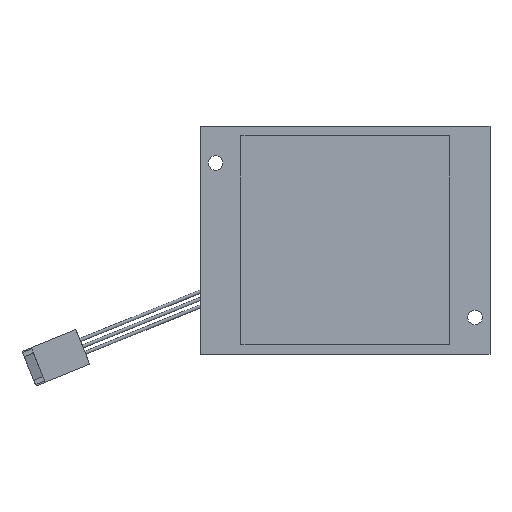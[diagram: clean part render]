
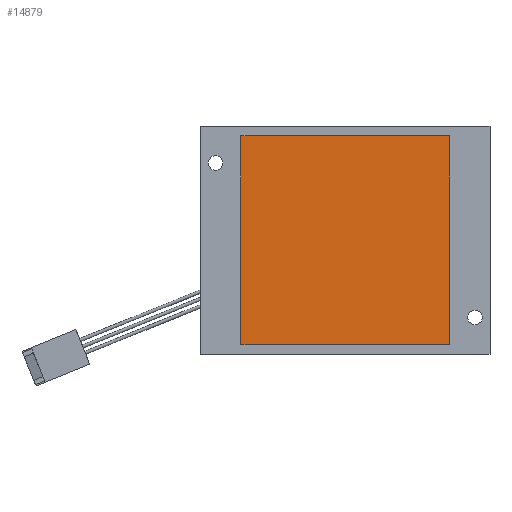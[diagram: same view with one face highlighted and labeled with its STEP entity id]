
A CAD part, front view. The second image highlights one B-rep face of the part: STEP entity #14879.
In plain terms, the highlighted planar face has unit normal (0, -1, 0).
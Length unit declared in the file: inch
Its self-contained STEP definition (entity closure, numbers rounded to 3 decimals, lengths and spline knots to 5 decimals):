
#380 = VERTEX_POINT ( 'NONE', #10661 ) ;
#1088 = PLANE ( 'NONE',  #29495 ) ;
#1500 = CARTESIAN_POINT ( 'NONE',  ( 0.90002, -0.00512, -0.90008 ) ) ;
#2191 = DIRECTION ( 'NONE',  ( 0., 1., 0. ) ) ;
#3727 = EDGE_CURVE ( 'NONE', #39242, #47855, #43519, .T. ) ;
#5800 = CARTESIAN_POINT ( 'NONE',  ( 0.00002, -0.00512, -0.00008 ) ) ;
#6351 = EDGE_CURVE ( 'NONE', #380, #26588, #38658, .T. ) ;
#8092 = LINE ( 'NONE', #50390, #39762 ) ;
#9494 = EDGE_CURVE ( 'NONE', #26588, #39242, #8092, .T. ) ;
#10661 = CARTESIAN_POINT ( 'NONE',  ( 0.90002, -0.00512, 0.89992 ) ) ;
#12876 = CARTESIAN_POINT ( 'NONE',  ( -0.89998, -0.00512, 0.89992 ) ) ;
#13141 = VECTOR ( 'NONE', #42767, 39.37008 ) ;
#13284 = CARTESIAN_POINT ( 'NONE',  ( -0.89998, -0.00512, 0.89992 ) ) ;
#14273 = ORIENTED_EDGE ( 'NONE', *, *, #18113, .F. ) ;
#14879 = ADVANCED_FACE ( 'NONE', ( #21503 ), #1088, .F. ) ;
#18113 = EDGE_CURVE ( 'NONE', #47855, #380, #42483, .T. ) ;
#18829 = VECTOR ( 'NONE', #30377, 39.37008 ) ;
#21503 = FACE_OUTER_BOUND ( 'NONE', #38359, .T. ) ;
#25666 = CARTESIAN_POINT ( 'NONE',  ( 0.90002, -0.00512, 0.89992 ) ) ;
#26588 = VERTEX_POINT ( 'NONE', #1500 ) ;
#26878 = DIRECTION ( 'NONE',  ( 0., 0., -1. ) ) ;
#29495 = AXIS2_PLACEMENT_3D ( 'NONE', #5800, #2191, #31542 ) ;
#30377 = DIRECTION ( 'NONE',  ( 0., 0., 1. ) ) ;
#31542 = DIRECTION ( 'NONE',  ( 0., 0., 1. ) ) ;
#33368 = ORIENTED_EDGE ( 'NONE', *, *, #6351, .F. ) ;
#35585 = CARTESIAN_POINT ( 'NONE',  ( -0.89998, -0.00512, -0.90008 ) ) ;
#38359 = EDGE_LOOP ( 'NONE', ( #40265, #40767, #33368, #14273 ) ) ;
#38658 = LINE ( 'NONE', #48158, #39243 ) ;
#39242 = VERTEX_POINT ( 'NONE', #35585 ) ;
#39243 = VECTOR ( 'NONE', #26878, 39.37008 ) ;
#39762 = VECTOR ( 'NONE', #42005, 39.37008 ) ;
#40265 = ORIENTED_EDGE ( 'NONE', *, *, #3727, .F. ) ;
#40767 = ORIENTED_EDGE ( 'NONE', *, *, #9494, .F. ) ;
#42005 = DIRECTION ( 'NONE',  ( -1., 0., 0. ) ) ;
#42483 = LINE ( 'NONE', #25666, #13141 ) ;
#42767 = DIRECTION ( 'NONE',  ( 1., 0., 0. ) ) ;
#43519 = LINE ( 'NONE', #13284, #18829 ) ;
#47855 = VERTEX_POINT ( 'NONE', #12876 ) ;
#48158 = CARTESIAN_POINT ( 'NONE',  ( 0.90002, -0.00512, 0.89992 ) ) ;
#50390 = CARTESIAN_POINT ( 'NONE',  ( 0.90002, -0.00512, -0.90008 ) ) ;
